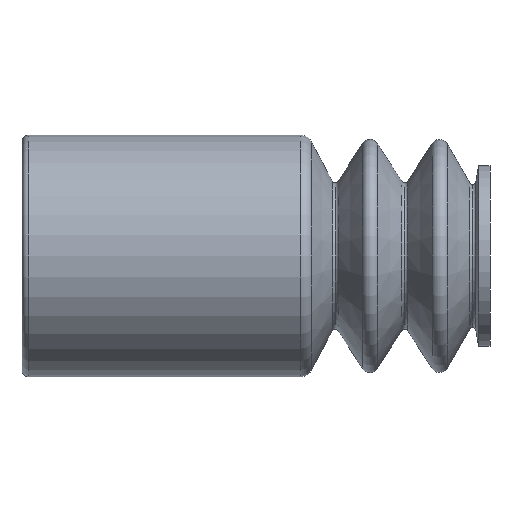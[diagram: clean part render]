
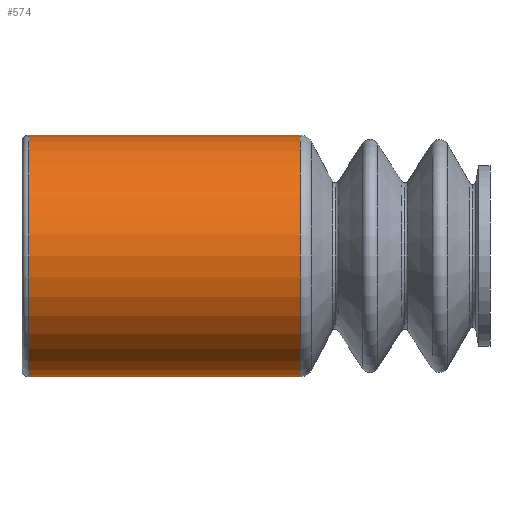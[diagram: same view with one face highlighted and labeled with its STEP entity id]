
A CAD part, left-side view. The second image highlights one B-rep face of the part: STEP entity #574.
In plain terms, the highlighted cylindrical face has radius 3.473 mm (diameter 6.946 mm), a partial arc.
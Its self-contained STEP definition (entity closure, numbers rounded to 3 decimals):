
#26 = VERTEX_POINT ( 'NONE', #1663 ) ;
#32 = AXIS2_PLACEMENT_3D ( 'NONE', #1443, #296, #279 ) ;
#80 = LINE ( 'NONE', #1507, #1160 ) ;
#154 = CARTESIAN_POINT ( 'NONE',  ( 0., -0.154, 0. ) ) ;
#279 = DIRECTION ( 'NONE',  ( 0., 0., 1. ) ) ;
#296 = DIRECTION ( 'NONE',  ( 0., 1., 0. ) ) ;
#414 = VERTEX_POINT ( 'NONE', #802 ) ;
#446 = CARTESIAN_POINT ( 'NONE',  ( 0., -0.349, -3.473 ) ) ;
#483 = DIRECTION ( 'NONE',  ( 0., 1., 0. ) ) ;
#506 = EDGE_CURVE ( 'NONE', #26, #1078, #1798, .T. ) ;
#514 = ORIENTED_EDGE ( 'NONE', *, *, #1294, .F. ) ;
#539 = EDGE_LOOP ( 'NONE', ( #1244, #793, #633, #514 ) ) ;
#568 = CARTESIAN_POINT ( 'NONE',  ( 0., -8.149, 3.473 ) ) ;
#572 = VERTEX_POINT ( 'NONE', #446 ) ;
#574 = ADVANCED_FACE ( 'NONE', ( #997 ), #578, .T. ) ;
#578 = CYLINDRICAL_SURFACE ( 'NONE', #1088, 3.473 ) ;
#631 = CARTESIAN_POINT ( 'NONE',  ( 0., -0.154, 3.473 ) ) ;
#633 = ORIENTED_EDGE ( 'NONE', *, *, #1792, .T. ) ;
#793 = ORIENTED_EDGE ( 'NONE', *, *, #506, .T. ) ;
#802 = CARTESIAN_POINT ( 'NONE',  ( 0., -0.349, 3.473 ) ) ;
#848 = CARTESIAN_POINT ( 'NONE',  ( 0., -0.349, 0. ) ) ;
#997 = FACE_OUTER_BOUND ( 'NONE', #539, .T. ) ;
#1059 = DIRECTION ( 'NONE',  ( 0., 1., 0. ) ) ;
#1078 = VERTEX_POINT ( 'NONE', #568 ) ;
#1088 = AXIS2_PLACEMENT_3D ( 'NONE', #154, #1308, #1720 ) ;
#1129 = VECTOR ( 'NONE', #1059, 1000. ) ;
#1160 = VECTOR ( 'NONE', #483, 1000. ) ;
#1241 = CIRCLE ( 'NONE', #1706, 3.473 ) ;
#1244 = ORIENTED_EDGE ( 'NONE', *, *, #1588, .F. ) ;
#1294 = EDGE_CURVE ( 'NONE', #572, #414, #1241, .T. ) ;
#1308 = DIRECTION ( 'NONE',  ( 0., 1., 0. ) ) ;
#1370 = DIRECTION ( 'NONE',  ( 0., 1., 0. ) ) ;
#1443 = CARTESIAN_POINT ( 'NONE',  ( 0., -8.149, 0. ) ) ;
#1507 = CARTESIAN_POINT ( 'NONE',  ( 0., -0.154, -3.473 ) ) ;
#1588 = EDGE_CURVE ( 'NONE', #26, #572, #80, .T. ) ;
#1663 = CARTESIAN_POINT ( 'NONE',  ( 0., -8.149, -3.473 ) ) ;
#1691 = DIRECTION ( 'NONE',  ( 0., 0., 1. ) ) ;
#1706 = AXIS2_PLACEMENT_3D ( 'NONE', #848, #1370, #1691 ) ;
#1720 = DIRECTION ( 'NONE',  ( 0., 0., 1. ) ) ;
#1760 = LINE ( 'NONE', #631, #1129 ) ;
#1792 = EDGE_CURVE ( 'NONE', #1078, #414, #1760, .T. ) ;
#1798 = CIRCLE ( 'NONE', #32, 3.473 ) ;
